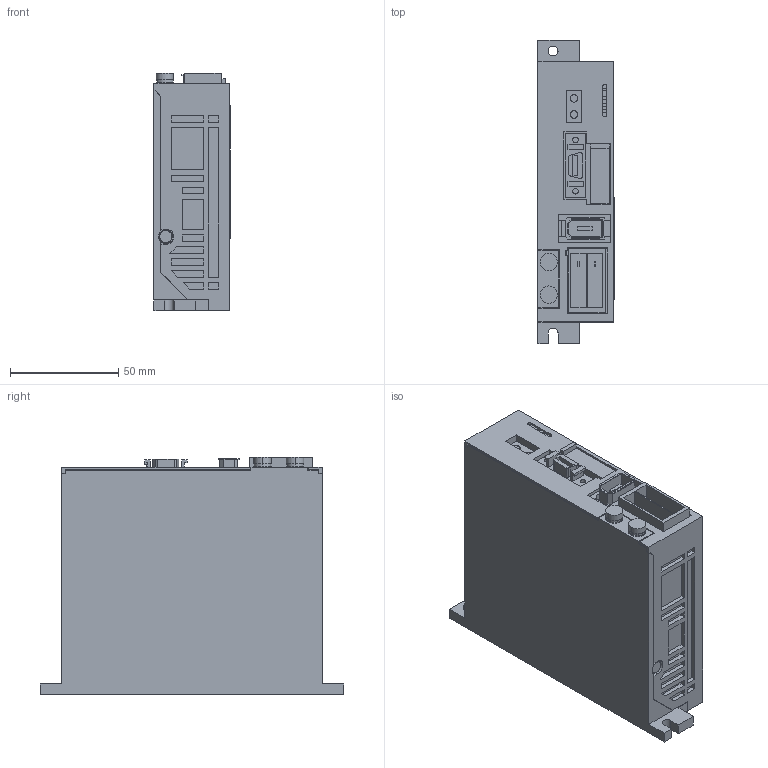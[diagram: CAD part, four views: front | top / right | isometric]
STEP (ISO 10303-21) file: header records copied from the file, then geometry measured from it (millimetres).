
FILE_DESCRIPTION (( 'STEP AP203' ), '1' );
FILE_NAME ('sjde_01apa_oy.STEP', '2011-11-08T23:37:46', ( '匠エンジニアリング山之内' ), ( 'TAKUMI-Engniaring' ), 'SwSTEP 2.0', 'SolidWorks 2006303', '' );
FILE_SCHEMA (( 'CONFIG_CONTROL_DESIGN' ));
Length unit declared in the file: millimetre
Products named in the file (1): sjde_01apa_oy
Bounding box: 35.1 x 140 x 109.6 mm (x, y, z)
Volume: 433515.3 mm3; surface area: 53130.7 mm2
Topology: 1 solids, 1 shells, 469 faces, 1194 edges, 790 vertices
Faces by surface type: plane 423, cylinder 46
Entity records: 13999 total; most frequent: CARTESIAN_POINT 2454, ORIENTED_EDGE 2388, DIRECTION 2228, EDGE_CURVE 1194, VECTOR 1100, LINE 1100, VERTEX_POINT 790, AXIS2_PLACEMENT_3D 564
